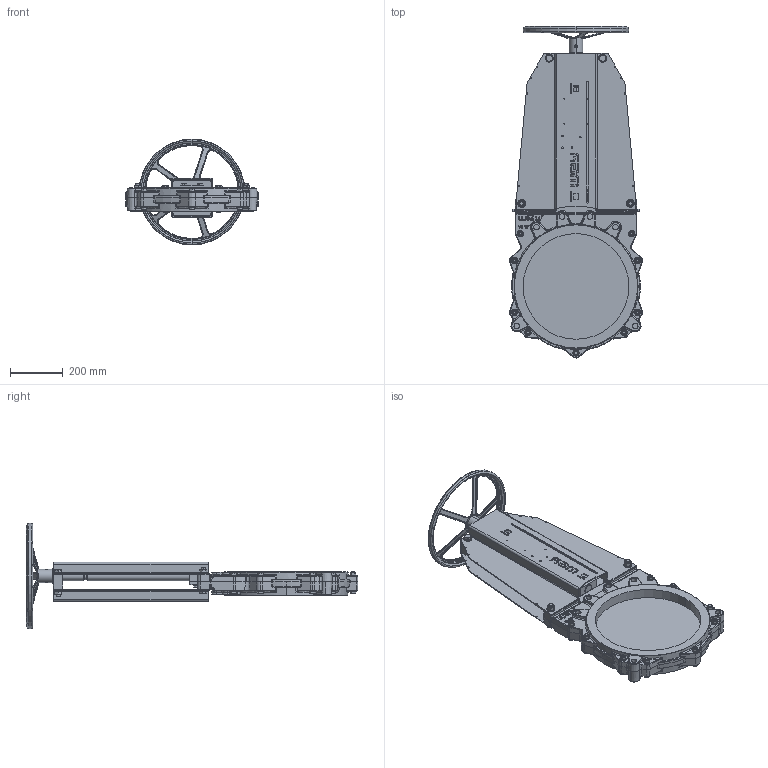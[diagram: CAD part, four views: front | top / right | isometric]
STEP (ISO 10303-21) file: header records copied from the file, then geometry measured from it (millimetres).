
FILE_DESCRIPTION (( 'STEP AP214' ), '1' );
FILE_NAME ('VSA DN 0400.STEP', '2015-09-23T10:58:08', ( 'admin' ), ( 'Hewlett-Packard Company' ), 'SwSTEP 2.0', 'SolidWorks 2013', '' );
FILE_SCHEMA (( 'AUTOMOTIVE_DESIGN' ));
Length unit declared in the file: millimetre
Products named in the file (1): VSA DN 0400
Bounding box: 504 x 1257 x 400 mm (x, y, z)
Volume: 14425655.1 mm3; surface area: 2408805.9 mm2
Topology: 68 solids, 70 shells, 3033 faces, 7267 edges, 4352 vertices
Faces by surface type: plane 1006, cylinder 855, cone 516, bspline 442, torus 202, sphere 12
Entity records: 142363 total; most frequent: CARTESIAN_POINT 41056, ORIENTED_EDGE 14358, DIRECTION 13530, EDGE_CURVE 7179, AXIS2_PLACEMENT_3D 5379, VERTEX_POINT 4352, EDGE_LOOP 3345, UNCERTAINTY_MEASURE_WITH_UNIT 3101
